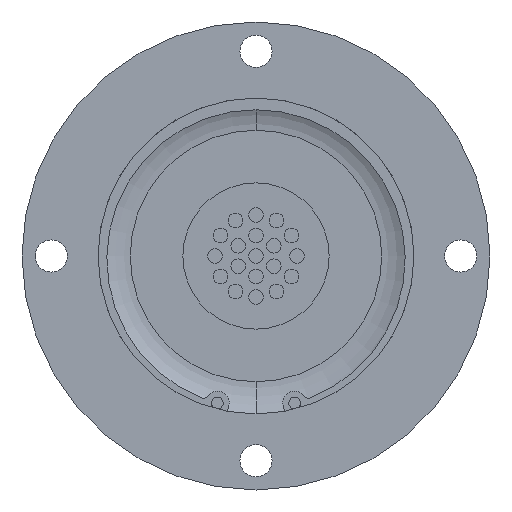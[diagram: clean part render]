
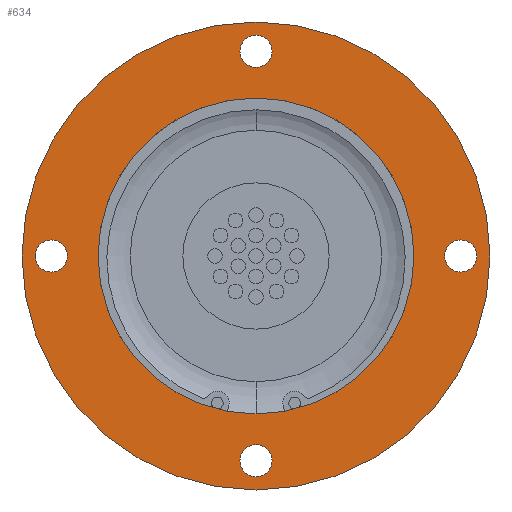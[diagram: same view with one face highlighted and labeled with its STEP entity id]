
A CAD part, front view. The second image highlights one B-rep face of the part: STEP entity #634.
In plain terms, the highlighted planar face has unit normal (0, -1, 0).
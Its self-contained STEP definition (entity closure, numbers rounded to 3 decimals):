
#27 = FACE_BOUND ( 'NONE', #1153, .T. ) ;
#64 = CIRCLE ( 'NONE', #2871, 5.5 ) ;
#97 = CARTESIAN_POINT ( 'NONE',  ( -70., 0., 0. ) ) ;
#176 = VERTEX_POINT ( 'NONE', #735 ) ;
#185 = ORIENTED_EDGE ( 'NONE', *, *, #2776, .T. ) ;
#209 = CARTESIAN_POINT ( 'NONE',  ( 0., 0., -54. ) ) ;
#291 = AXIS2_PLACEMENT_3D ( 'NONE', #2777, #1337, #3006 ) ;
#310 = CARTESIAN_POINT ( 'NONE',  ( 70., 0., 0. ) ) ;
#313 = VERTEX_POINT ( 'NONE', #209 ) ;
#334 = DIRECTION ( 'NONE',  ( 0., 0., -1. ) ) ;
#378 = DIRECTION ( 'NONE',  ( 0., 1., 0. ) ) ;
#387 = DIRECTION ( 'NONE',  ( 0., 1., 0. ) ) ;
#399 = CARTESIAN_POINT ( 'NONE',  ( 0., 0., 70. ) ) ;
#404 = CARTESIAN_POINT ( 'NONE',  ( 0., 0., 70. ) ) ;
#411 = CIRCLE ( 'NONE', #1633, 80. ) ;
#433 = VERTEX_POINT ( 'NONE', #1428 ) ;
#471 = AXIS2_PLACEMENT_3D ( 'NONE', #404, #2047, #648 ) ;
#476 = EDGE_LOOP ( 'NONE', ( #1662, #1714 ) ) ;
#483 = DIRECTION ( 'NONE',  ( 0., 1., 0. ) ) ;
#504 = CARTESIAN_POINT ( 'NONE',  ( 0., 0., 80. ) ) ;
#509 = CARTESIAN_POINT ( 'NONE',  ( -70., 0., 0. ) ) ;
#548 = DIRECTION ( 'NONE',  ( 0., 0., -1. ) ) ;
#577 = EDGE_LOOP ( 'NONE', ( #736, #3008 ) ) ;
#588 = EDGE_CURVE ( 'NONE', #2187, #760, #1339, .T. ) ;
#634 = ADVANCED_FACE ( 'NONE', ( #2531, #880, #1266, #665, #27, #1891 ), #1086, .T. ) ;
#644 = DIRECTION ( 'NONE',  ( 0., 0., -1. ) ) ;
#648 = DIRECTION ( 'NONE',  ( 0., 0., -1. ) ) ;
#665 = FACE_BOUND ( 'NONE', #2449, .T. ) ;
#735 = CARTESIAN_POINT ( 'NONE',  ( 0., 0., 75.5 ) ) ;
#736 = ORIENTED_EDGE ( 'NONE', *, *, #2243, .T. ) ;
#747 = AXIS2_PLACEMENT_3D ( 'NONE', #509, #2150, #755 ) ;
#755 = DIRECTION ( 'NONE',  ( 0., 0., -1. ) ) ;
#760 = VERTEX_POINT ( 'NONE', #1362 ) ;
#794 = EDGE_CURVE ( 'NONE', #1206, #1252, #2572, .T. ) ;
#851 = EDGE_CURVE ( 'NONE', #176, #2852, #64, .T. ) ;
#880 = FACE_BOUND ( 'NONE', #577, .T. ) ;
#928 = EDGE_LOOP ( 'NONE', ( #2178, #185 ) ) ;
#1006 = CIRCLE ( 'NONE', #747, 5.5 ) ;
#1015 = ORIENTED_EDGE ( 'NONE', *, *, #2669, .T. ) ;
#1023 = EDGE_LOOP ( 'NONE', ( #2173, #2160 ) ) ;
#1086 = PLANE ( 'NONE',  #2763 ) ;
#1093 = AXIS2_PLACEMENT_3D ( 'NONE', #1377, #3051, #1611 ) ;
#1112 = CIRCLE ( 'NONE', #2246, 5.5 ) ;
#1138 = CIRCLE ( 'NONE', #1574, 80. ) ;
#1143 = CARTESIAN_POINT ( 'NONE',  ( 0., 0., -75.5 ) ) ;
#1153 = EDGE_LOOP ( 'NONE', ( #2730, #1289 ) ) ;
#1206 = VERTEX_POINT ( 'NONE', #2558 ) ;
#1218 = CARTESIAN_POINT ( 'NONE',  ( 70., 0., -5.5 ) ) ;
#1219 = CIRCLE ( 'NONE', #291, 54. ) ;
#1228 = CARTESIAN_POINT ( 'NONE',  ( 0., 0., 0. ) ) ;
#1242 = EDGE_CURVE ( 'NONE', #1252, #1206, #1455, .T. ) ;
#1252 = VERTEX_POINT ( 'NONE', #1143 ) ;
#1266 = FACE_BOUND ( 'NONE', #1023, .T. ) ;
#1277 = DIRECTION ( 'NONE',  ( 0., 1., 0. ) ) ;
#1289 = ORIENTED_EDGE ( 'NONE', *, *, #1518, .T. ) ;
#1311 = DIRECTION ( 'NONE',  ( 0., 0., -1. ) ) ;
#1337 = DIRECTION ( 'NONE',  ( 0., 1., 0. ) ) ;
#1339 = CIRCLE ( 'NONE', #1948, 5.5 ) ;
#1345 = VERTEX_POINT ( 'NONE', #1413 ) ;
#1362 = CARTESIAN_POINT ( 'NONE',  ( 70., 0., 5.5 ) ) ;
#1377 = CARTESIAN_POINT ( 'NONE',  ( 0., 0., -70. ) ) ;
#1413 = CARTESIAN_POINT ( 'NONE',  ( -70., 0., 5.5 ) ) ;
#1428 = CARTESIAN_POINT ( 'NONE',  ( 0., 0., 54. ) ) ;
#1455 = CIRCLE ( 'NONE', #1093, 5.5 ) ;
#1468 = DIRECTION ( 'NONE',  ( 0., 0., 1. ) ) ;
#1506 = AXIS2_PLACEMENT_3D ( 'NONE', #2713, #1277, #2949 ) ;
#1518 = EDGE_CURVE ( 'NONE', #313, #433, #2211, .T. ) ;
#1574 = AXIS2_PLACEMENT_3D ( 'NONE', #1228, #2892, #1468 ) ;
#1585 = CIRCLE ( 'NONE', #471, 5.5 ) ;
#1611 = DIRECTION ( 'NONE',  ( 0., 0., -1. ) ) ;
#1633 = AXIS2_PLACEMENT_3D ( 'NONE', #1775, #387, #2028 ) ;
#1657 = EDGE_CURVE ( 'NONE', #433, #313, #1219, .T. ) ;
#1662 = ORIENTED_EDGE ( 'NONE', *, *, #2197, .F. ) ;
#1714 = ORIENTED_EDGE ( 'NONE', *, *, #1991, .F. ) ;
#1728 = DIRECTION ( 'NONE',  ( 0., 1., 0. ) ) ;
#1768 = CARTESIAN_POINT ( 'NONE',  ( 0., 0., -70. ) ) ;
#1775 = CARTESIAN_POINT ( 'NONE',  ( 0., 0., 0. ) ) ;
#1872 = CARTESIAN_POINT ( 'NONE',  ( 70., 0., 0. ) ) ;
#1891 = FACE_OUTER_BOUND ( 'NONE', #476, .T. ) ;
#1939 = DIRECTION ( 'NONE',  ( 0., 1., 0. ) ) ;
#1948 = AXIS2_PLACEMENT_3D ( 'NONE', #1872, #483, #2124 ) ;
#1991 = EDGE_CURVE ( 'NONE', #2897, #2119, #411, .T. ) ;
#2023 = CARTESIAN_POINT ( 'NONE',  ( -80., 0., 0. ) ) ;
#2024 = DIRECTION ( 'NONE',  ( 0., 0., -1. ) ) ;
#2028 = DIRECTION ( 'NONE',  ( 0., 0., 1. ) ) ;
#2045 = DIRECTION ( 'NONE',  ( 0., 1., 0. ) ) ;
#2047 = DIRECTION ( 'NONE',  ( 0., 1., 0. ) ) ;
#2058 = AXIS2_PLACEMENT_3D ( 'NONE', #310, #1939, #548 ) ;
#2063 = AXIS2_PLACEMENT_3D ( 'NONE', #1768, #378, #2024 ) ;
#2078 = CIRCLE ( 'NONE', #2058, 5.5 ) ;
#2119 = VERTEX_POINT ( 'NONE', #504 ) ;
#2124 = DIRECTION ( 'NONE',  ( 0., 0., -1. ) ) ;
#2143 = ORIENTED_EDGE ( 'NONE', *, *, #2991, .T. ) ;
#2150 = DIRECTION ( 'NONE',  ( 0., 1., 0. ) ) ;
#2160 = ORIENTED_EDGE ( 'NONE', *, *, #1242, .T. ) ;
#2173 = ORIENTED_EDGE ( 'NONE', *, *, #794, .T. ) ;
#2178 = ORIENTED_EDGE ( 'NONE', *, *, #851, .T. ) ;
#2187 = VERTEX_POINT ( 'NONE', #1218 ) ;
#2197 = EDGE_CURVE ( 'NONE', #2119, #2897, #1138, .T. ) ;
#2211 = CIRCLE ( 'NONE', #1506, 54. ) ;
#2243 = EDGE_CURVE ( 'NONE', #760, #2187, #2078, .T. ) ;
#2246 = AXIS2_PLACEMENT_3D ( 'NONE', #97, #1728, #334 ) ;
#2320 = CARTESIAN_POINT ( 'NONE',  ( 0., 0., -80. ) ) ;
#2416 = CARTESIAN_POINT ( 'NONE',  ( -70., 0., -5.5 ) ) ;
#2449 = EDGE_LOOP ( 'NONE', ( #2143, #1015 ) ) ;
#2531 = FACE_BOUND ( 'NONE', #928, .T. ) ;
#2558 = CARTESIAN_POINT ( 'NONE',  ( 0., 0., -64.5 ) ) ;
#2572 = CIRCLE ( 'NONE', #2063, 5.5 ) ;
#2599 = VERTEX_POINT ( 'NONE', #2416 ) ;
#2669 = EDGE_CURVE ( 'NONE', #2599, #1345, #1112, .T. ) ;
#2713 = CARTESIAN_POINT ( 'NONE',  ( 0., 0., 0. ) ) ;
#2730 = ORIENTED_EDGE ( 'NONE', *, *, #1657, .T. ) ;
#2745 = DIRECTION ( 'NONE',  ( 0., -1., 0. ) ) ;
#2763 = AXIS2_PLACEMENT_3D ( 'NONE', #2023, #2745, #1311 ) ;
#2776 = EDGE_CURVE ( 'NONE', #2852, #176, #1585, .T. ) ;
#2777 = CARTESIAN_POINT ( 'NONE',  ( 0., 0., 0. ) ) ;
#2806 = CARTESIAN_POINT ( 'NONE',  ( 0., 0., 64.5 ) ) ;
#2852 = VERTEX_POINT ( 'NONE', #2806 ) ;
#2871 = AXIS2_PLACEMENT_3D ( 'NONE', #399, #2045, #644 ) ;
#2892 = DIRECTION ( 'NONE',  ( 0., 1., 0. ) ) ;
#2897 = VERTEX_POINT ( 'NONE', #2320 ) ;
#2949 = DIRECTION ( 'NONE',  ( 0., 0., 1. ) ) ;
#2991 = EDGE_CURVE ( 'NONE', #1345, #2599, #1006, .T. ) ;
#3006 = DIRECTION ( 'NONE',  ( 0., 0., 1. ) ) ;
#3008 = ORIENTED_EDGE ( 'NONE', *, *, #588, .T. ) ;
#3051 = DIRECTION ( 'NONE',  ( 0., 1., 0. ) ) ;
